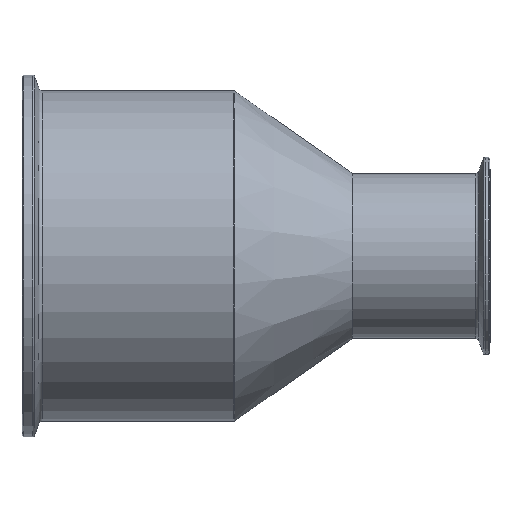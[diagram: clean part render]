
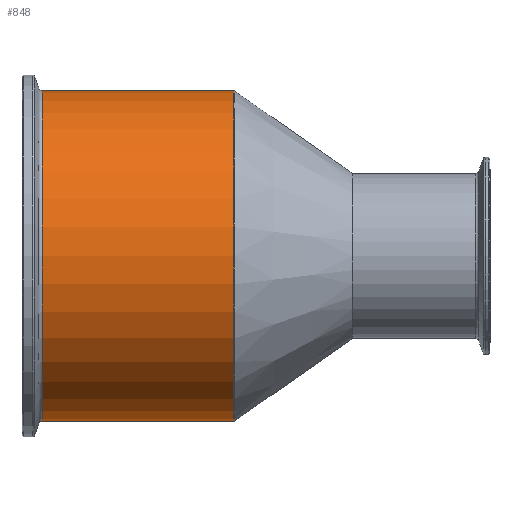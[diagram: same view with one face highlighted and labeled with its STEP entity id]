
A CAD part, top view. The second image highlights one B-rep face of the part: STEP entity #848.
In plain terms, the highlighted cylindrical face has radius 76.2 mm (diameter 152.4 mm), a partial arc.
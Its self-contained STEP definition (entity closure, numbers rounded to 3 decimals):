
#13 = AXIS2_PLACEMENT_3D ( 'NONE', #1008, #998, #995 ) ;
#26 = EDGE_CURVE ( 'NONE', #810, #1543, #590, .T. ) ;
#76 = EDGE_CURVE ( 'NONE', #810, #1080, #910, .T. ) ;
#126 = VERTEX_POINT ( 'NONE', #1047 ) ;
#127 = CARTESIAN_POINT ( 'NONE',  ( 9.339, 76.2, 0. ) ) ;
#259 = AXIS2_PLACEMENT_3D ( 'NONE', #934, #1039, #1021 ) ;
#284 = CARTESIAN_POINT ( 'NONE',  ( 97.739, 76.2, 0. ) ) ;
#362 = VECTOR ( 'NONE', #885, 1000. ) ;
#450 = EDGE_LOOP ( 'NONE', ( #605, #1005, #978, #1144 ) ) ;
#590 = LINE ( 'NONE', #650, #362 ) ;
#605 = ORIENTED_EDGE ( 'NONE', *, *, #76, .T. ) ;
#628 = DIRECTION ( 'NONE',  ( 1., 0., 0. ) ) ;
#650 = CARTESIAN_POINT ( 'NONE',  ( 204.684, 76.2, 0. ) ) ;
#678 = EDGE_CURVE ( 'NONE', #1080, #126, #935, .T. ) ;
#788 = FACE_OUTER_BOUND ( 'NONE', #450, .T. ) ;
#810 = VERTEX_POINT ( 'NONE', #127 ) ;
#848 = ADVANCED_FACE ( 'NONE', ( #788 ), #1681, .T. ) ;
#885 = DIRECTION ( 'NONE',  ( 1., 0., 0. ) ) ;
#905 = CARTESIAN_POINT ( 'NONE',  ( 204.684, -76.2, 0. ) ) ;
#910 = CIRCLE ( 'NONE', #1536, 76.2 ) ;
#934 = CARTESIAN_POINT ( 'NONE',  ( 204.684, 0., 0. ) ) ;
#935 = LINE ( 'NONE', #905, #1231 ) ;
#978 = ORIENTED_EDGE ( 'NONE', *, *, #1348, .F. ) ;
#995 = DIRECTION ( 'NONE',  ( 0., 1., 0. ) ) ;
#998 = DIRECTION ( 'NONE',  ( 1., 0., 0. ) ) ;
#1005 = ORIENTED_EDGE ( 'NONE', *, *, #678, .T. ) ;
#1008 = CARTESIAN_POINT ( 'NONE',  ( 97.739, 0., 0. ) ) ;
#1021 = DIRECTION ( 'NONE',  ( 0., 1., 0. ) ) ;
#1036 = CIRCLE ( 'NONE', #13, 76.2 ) ;
#1039 = DIRECTION ( 'NONE',  ( 1., 0., 0. ) ) ;
#1047 = CARTESIAN_POINT ( 'NONE',  ( 97.739, -76.2, 0. ) ) ;
#1080 = VERTEX_POINT ( 'NONE', #1127 ) ;
#1127 = CARTESIAN_POINT ( 'NONE',  ( 9.339, -76.2, 0. ) ) ;
#1144 = ORIENTED_EDGE ( 'NONE', *, *, #26, .F. ) ;
#1175 = DIRECTION ( 'NONE',  ( 0., 1., 0. ) ) ;
#1231 = VECTOR ( 'NONE', #628, 1000. ) ;
#1283 = DIRECTION ( 'NONE',  ( 1., 0., 0. ) ) ;
#1302 = CARTESIAN_POINT ( 'NONE',  ( 9.339, 0., 0. ) ) ;
#1348 = EDGE_CURVE ( 'NONE', #1543, #126, #1036, .T. ) ;
#1536 = AXIS2_PLACEMENT_3D ( 'NONE', #1302, #1283, #1175 ) ;
#1543 = VERTEX_POINT ( 'NONE', #284 ) ;
#1681 = CYLINDRICAL_SURFACE ( 'NONE', #259, 76.2 ) ;
